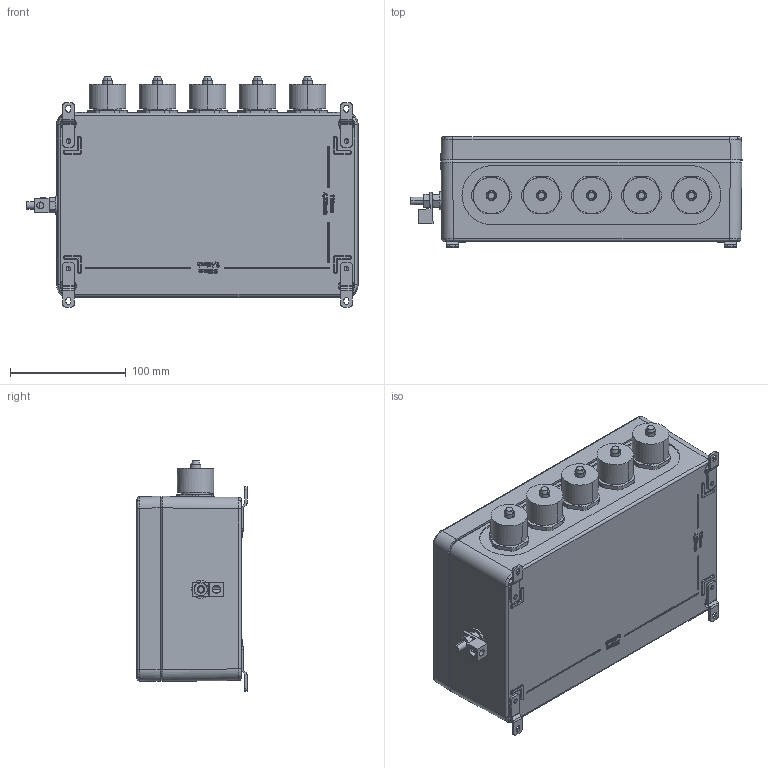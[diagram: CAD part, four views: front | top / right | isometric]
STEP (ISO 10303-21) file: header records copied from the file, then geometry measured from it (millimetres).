
FILE_DESCRIPTION (( 'STEP AP203' ), '1' );
FILE_NAME ('SNX-P4.STEP', '2011-07-13T19:44:11', ( 'Leslie Davis' ), ( 'Reference LLC' ), 'SwSTEP 2.0', 'SolidWorks 2006233', '' );
FILE_SCHEMA (( 'CONFIG_CONTROL_DESIGN' ));
Products named in the file (1): SNX-P4
Bounding box: 286.61 x 95 x 198.74 mm (x, y, z)
Volume: 3704647 mm3; surface area: 222675.3 mm2
Topology: 6 solids, 19 shells, 4953 faces, 12399 edges, 7464 vertices
Faces by surface type: plane 2010, bspline 1846, cylinder 950, cone 139, torus 8
Entity records: 227454 total; most frequent: CARTESIAN_POINT 123693, ORIENTED_EDGE 24098, DIRECTION 16733, EDGE_CURVE 12049, VERTEX_POINT 7464, VECTOR 6849, LINE 6849, EDGE_LOOP 5313
